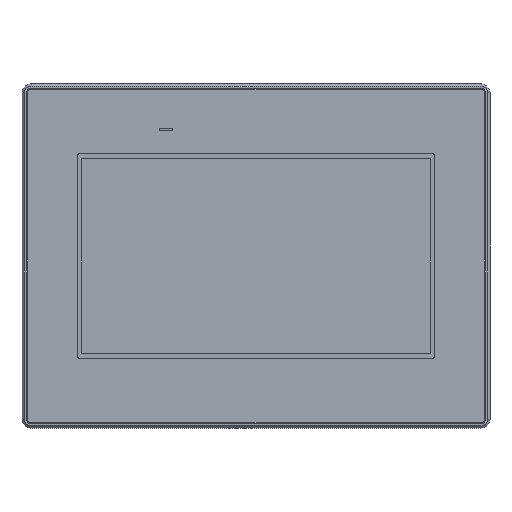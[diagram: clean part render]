
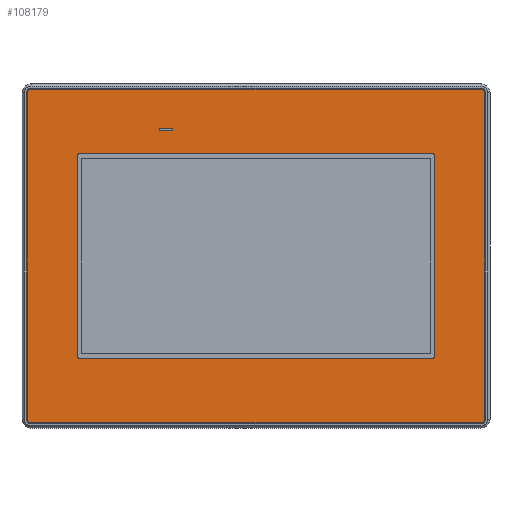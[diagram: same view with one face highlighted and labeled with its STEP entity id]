
A CAD part, top view. The second image highlights one B-rep face of the part: STEP entity #108179.
In plain terms, the highlighted planar face has unit normal (0, 0, 1).
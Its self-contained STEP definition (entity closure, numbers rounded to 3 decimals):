
#6869=CARTESIAN_POINT('',(-99.7,72.2,5.1));
#6870=DIRECTION('',(0.,0.,-1.));
#6871=DIRECTION('',(-1.,0.,0.));
#6872=AXIS2_PLACEMENT_3D('',#6869,#6870,#6871);
#6874=DIRECTION('',(1.,0.,0.));
#6875=VECTOR('',#6874,199.4);
#6876=CARTESIAN_POINT('',(-99.7,74.2,5.1));
#6877=LINE('',#6876,#6875);
#6878=CARTESIAN_POINT('',(99.7,72.2,5.1));
#6879=DIRECTION('',(0.,0.,-1.));
#6880=DIRECTION('',(0.,1.,0.));
#6881=AXIS2_PLACEMENT_3D('',#6878,#6879,#6880);
#6883=DIRECTION('',(0.,-1.,0.));
#6884=VECTOR('',#6883,144.4);
#6885=CARTESIAN_POINT('',(101.7,72.2,5.1));
#6886=LINE('',#6885,#6884);
#6887=CARTESIAN_POINT('',(99.7,-72.2,5.1));
#6888=DIRECTION('',(0.,0.,-1.));
#6889=DIRECTION('',(1.,0.,0.));
#6890=AXIS2_PLACEMENT_3D('',#6887,#6888,#6889);
#6892=DIRECTION('',(-1.,0.,0.));
#6893=VECTOR('',#6892,199.4);
#6894=CARTESIAN_POINT('',(99.7,-74.2,5.1));
#6895=LINE('',#6894,#6893);
#6896=CARTESIAN_POINT('',(-99.7,-72.2,5.1));
#6897=DIRECTION('',(0.,0.,-1.));
#6898=DIRECTION('',(0.,-1.,0.));
#6899=AXIS2_PLACEMENT_3D('',#6896,#6897,#6898);
#6901=DIRECTION('',(0.,1.,0.));
#6902=VECTOR('',#6901,144.4);
#6903=CARTESIAN_POINT('',(-101.7,-72.2,5.1));
#6904=LINE('',#6903,#6902);
#6905=CARTESIAN_POINT('',(-78.54,44.46,5.1));
#6906=DIRECTION('',(0.,0.,1.));
#6907=DIRECTION('',(0.,1.,0.));
#6908=AXIS2_PLACEMENT_3D('',#6905,#6906,#6907);
#6910=CARTESIAN_POINT('',(-78.54,-44.46,5.1));
#6911=DIRECTION('',(0.,0.,1.));
#6912=DIRECTION('',(-1.,0.,0.));
#6913=AXIS2_PLACEMENT_3D('',#6910,#6911,#6912);
#6915=CARTESIAN_POINT('',(78.54,-44.46,5.1));
#6916=DIRECTION('',(0.,0.,1.));
#6917=DIRECTION('',(0.,-1.,0.));
#6918=AXIS2_PLACEMENT_3D('',#6915,#6916,#6917);
#6920=CARTESIAN_POINT('',(78.54,44.46,5.1));
#6921=DIRECTION('',(0.,0.,1.));
#6922=DIRECTION('',(1.,0.,0.));
#6923=AXIS2_PLACEMENT_3D('',#6920,#6921,#6922);
#6925=DIRECTION('',(-1.,0.,0.));
#6926=VECTOR('',#6925,6.);
#6927=CARTESIAN_POINT('',(-37.,55.8,5.1));
#6928=LINE('',#6927,#6926);
#6929=DIRECTION('',(0.,1.,0.));
#6930=VECTOR('',#6929,1.);
#6931=CARTESIAN_POINT('',(-43.,55.8,5.1));
#6932=LINE('',#6931,#6930);
#6937=DIRECTION('',(1.,0.,0.));
#6938=VECTOR('',#6937,6.);
#6939=CARTESIAN_POINT('',(-43.,56.8,5.1));
#6940=LINE('',#6939,#6938);
#6945=DIRECTION('',(0.,-1.,0.));
#6946=VECTOR('',#6945,1.);
#6947=CARTESIAN_POINT('',(-37.,56.8,5.1));
#6948=LINE('',#6947,#6946);
#6973=DIRECTION('',(1.,0.,0.));
#6974=VECTOR('',#6973,157.08);
#6975=CARTESIAN_POINT('',(-78.54,45.46,5.1));
#6976=LINE('',#6975,#6974);
#6981=DIRECTION('',(0.,-1.,0.));
#6982=VECTOR('',#6981,88.92);
#6983=CARTESIAN_POINT('',(79.54,44.46,5.1));
#6984=LINE('',#6983,#6982);
#6993=DIRECTION('',(-1.,0.,0.));
#6994=VECTOR('',#6993,157.08);
#6995=CARTESIAN_POINT('',(78.54,-45.46,5.1));
#6996=LINE('',#6995,#6994);
#7005=DIRECTION('',(0.,1.,0.));
#7006=VECTOR('',#7005,88.92);
#7007=CARTESIAN_POINT('',(-79.54,-44.46,5.1));
#7008=LINE('',#7007,#7006);
#87941=CARTESIAN_POINT('',(-101.7,72.2,5.1));
#87942=CARTESIAN_POINT('',(-99.7,74.2,5.1));
#87943=VERTEX_POINT('',#87941);
#87944=VERTEX_POINT('',#87942);
#87945=CARTESIAN_POINT('',(99.7,74.2,5.1));
#87946=VERTEX_POINT('',#87945);
#87947=CARTESIAN_POINT('',(101.7,72.2,5.1));
#87948=VERTEX_POINT('',#87947);
#87949=CARTESIAN_POINT('',(101.7,-72.2,5.1));
#87950=VERTEX_POINT('',#87949);
#87951=CARTESIAN_POINT('',(99.7,-74.2,5.1));
#87952=VERTEX_POINT('',#87951);
#87953=CARTESIAN_POINT('',(-99.7,-74.2,5.1));
#87954=VERTEX_POINT('',#87953);
#87955=CARTESIAN_POINT('',(-101.7,-72.2,5.1));
#87956=VERTEX_POINT('',#87955);
#87957=CARTESIAN_POINT('',(-78.54,45.46,5.1));
#87958=CARTESIAN_POINT('',(-79.54,44.46,5.1));
#87959=VERTEX_POINT('',#87957);
#87960=VERTEX_POINT('',#87958);
#87961=CARTESIAN_POINT('',(-79.54,-44.46,5.1));
#87962=CARTESIAN_POINT('',(-78.54,-45.46,5.1));
#87963=VERTEX_POINT('',#87961);
#87964=VERTEX_POINT('',#87962);
#87965=CARTESIAN_POINT('',(78.54,-45.46,5.1));
#87966=CARTESIAN_POINT('',(79.54,-44.46,5.1));
#87967=VERTEX_POINT('',#87965);
#87968=VERTEX_POINT('',#87966);
#87969=CARTESIAN_POINT('',(79.54,44.46,5.1));
#87970=CARTESIAN_POINT('',(78.54,45.46,5.1));
#87971=VERTEX_POINT('',#87969);
#87972=VERTEX_POINT('',#87970);
#87973=CARTESIAN_POINT('',(-37.,55.8,5.1));
#87974=CARTESIAN_POINT('',(-43.,55.8,5.1));
#87975=VERTEX_POINT('',#87973);
#87976=VERTEX_POINT('',#87974);
#87977=CARTESIAN_POINT('',(-43.,56.8,5.1));
#87978=VERTEX_POINT('',#87977);
#87981=CARTESIAN_POINT('',(-37.,56.8,5.1));
#87982=VERTEX_POINT('',#87981);
#108136=CARTESIAN_POINT('',(0.,0.,5.1));
#108137=DIRECTION('',(0.,0.,1.));
#108138=DIRECTION('',(1.,0.,0.));
#108139=AXIS2_PLACEMENT_3D('',#108136,#108137,#108138);
#108140=PLANE('',#108139);
#108141=ORIENTED_EDGE('',*,*,#108032,.T.);
#108142=ORIENTED_EDGE('',*,*,#108047,.T.);
#108143=ORIENTED_EDGE('',*,*,#108061,.T.);
#108144=ORIENTED_EDGE('',*,*,#108075,.T.);
#108145=ORIENTED_EDGE('',*,*,#108089,.T.);
#108146=ORIENTED_EDGE('',*,*,#108103,.T.);
#108147=ORIENTED_EDGE('',*,*,#108117,.T.);
#108148=ORIENTED_EDGE('',*,*,#108130,.T.);
#108149=EDGE_LOOP('',(#108141,#108142,#108143,#108144,#108145,#108146,#108147,
#108148));
#108150=FACE_OUTER_BOUND('',#108149,.F.);
#108152=ORIENTED_EDGE('',*,*,#108151,.F.);
#108154=ORIENTED_EDGE('',*,*,#108153,.F.);
#108156=ORIENTED_EDGE('',*,*,#108155,.F.);
#108158=ORIENTED_EDGE('',*,*,#108157,.F.);
#108159=EDGE_LOOP('',(#108152,#108154,#108156,#108158));
#108160=FACE_BOUND('',#108159,.F.);
#108162=ORIENTED_EDGE('',*,*,#108161,.F.);
#108164=ORIENTED_EDGE('',*,*,#108163,.T.);
#108166=ORIENTED_EDGE('',*,*,#108165,.F.);
#108168=ORIENTED_EDGE('',*,*,#108167,.T.);
#108170=ORIENTED_EDGE('',*,*,#108169,.F.);
#108172=ORIENTED_EDGE('',*,*,#108171,.T.);
#108174=ORIENTED_EDGE('',*,*,#108173,.F.);
#108176=ORIENTED_EDGE('',*,*,#108175,.T.);
#108177=EDGE_LOOP('',(#108162,#108164,#108166,#108168,#108170,#108172,#108174,
#108176));
#108178=FACE_BOUND('',#108177,.F.);
#108179=ADVANCED_FACE('',(#108150,#108160,#108178),#108140,.T.);
#6873=CIRCLE('',#6872,2.);
#6882=CIRCLE('',#6881,2.);
#6891=CIRCLE('',#6890,2.);
#6900=CIRCLE('',#6899,2.);
#6909=CIRCLE('',#6908,1.);
#6914=CIRCLE('',#6913,1.);
#6919=CIRCLE('',#6918,1.);
#6924=CIRCLE('',#6923,1.);
#108032=EDGE_CURVE('',#87943,#87944,#6873,.T.);
#108047=EDGE_CURVE('',#87944,#87946,#6877,.T.);
#108061=EDGE_CURVE('',#87946,#87948,#6882,.T.);
#108075=EDGE_CURVE('',#87948,#87950,#6886,.T.);
#108089=EDGE_CURVE('',#87950,#87952,#6891,.T.);
#108103=EDGE_CURVE('',#87952,#87954,#6895,.T.);
#108117=EDGE_CURVE('',#87954,#87956,#6900,.T.);
#108130=EDGE_CURVE('',#87956,#87943,#6904,.T.);
#108151=EDGE_CURVE('',#87975,#87976,#6928,.T.);
#108153=EDGE_CURVE('',#87982,#87975,#6948,.T.);
#108155=EDGE_CURVE('',#87978,#87982,#6940,.T.);
#108157=EDGE_CURVE('',#87976,#87978,#6932,.T.);
#108161=EDGE_CURVE('',#87959,#87972,#6976,.T.);
#108163=EDGE_CURVE('',#87959,#87960,#6909,.T.);
#108165=EDGE_CURVE('',#87963,#87960,#7008,.T.);
#108167=EDGE_CURVE('',#87963,#87964,#6914,.T.);
#108169=EDGE_CURVE('',#87967,#87964,#6996,.T.);
#108171=EDGE_CURVE('',#87967,#87968,#6919,.T.);
#108173=EDGE_CURVE('',#87971,#87968,#6984,.T.);
#108175=EDGE_CURVE('',#87971,#87972,#6924,.T.);
